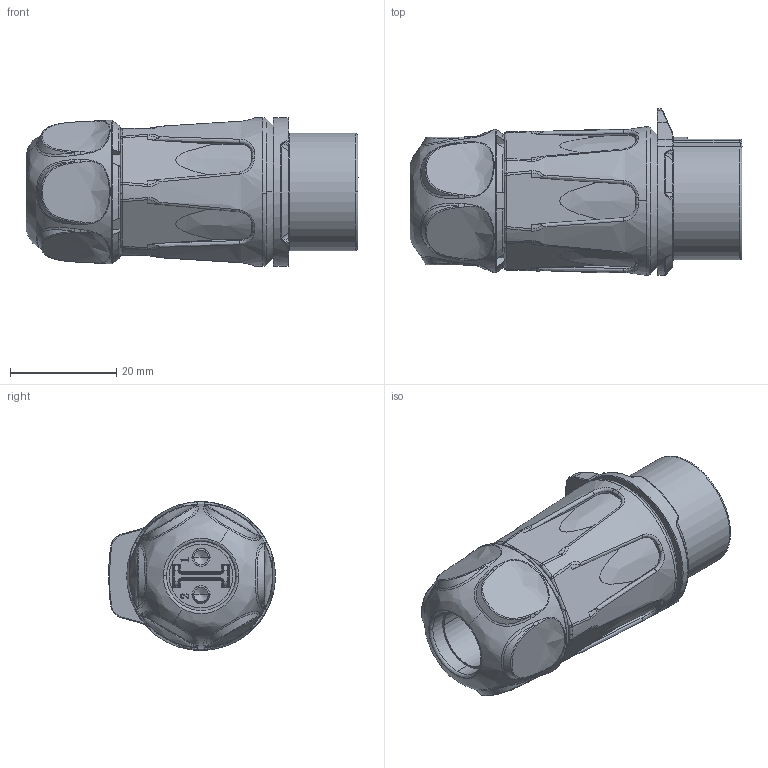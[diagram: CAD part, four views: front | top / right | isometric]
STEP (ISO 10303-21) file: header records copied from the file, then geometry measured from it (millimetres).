
FILE_DESCRIPTION (( 'STEP AP203' ), '1' );
FILE_NAME ('LP-20对接插座组件（塑胶无LOGO款）.STEP', '2018-04-19T11:12:14', ( 'John' ), ( '' ), 'SwSTEP 2.0', 'SolidWorks 2015', '' );
FILE_SCHEMA (( 'CONFIG_CONTROL_DESIGN' ));
Length unit declared in the file: millimetre
Products named in the file (10): 2.7譫渀; 20倰呿蝶郋A璃ㄗ謗郋ㄘ; AB璃郪磁ㄗ謗郋ㄘ; 202-0088-00  LP-20单孔座子（塑胶款有卡孔无LOGO）; LP-20对接插座组件（塑胶无LOGO款）; 299-0046-00  LP-20卡扣件（配塑胶款）; 209-0015-00  LP-20勤諉帣窒; YA-20尾部胶圈（电源）; 210-0023-00  LP-20蹟簽; 20倰呿蝶郋B璃ㄗ謗郋ㄘ
Assembly tree (10 placements, depth 3):
  LP-20对接插座组件（塑胶无LOGO款）
    202-0088-00  LP-20单孔座子（塑胶款有卡孔无LOGO）
    299-0046-00  LP-20卡扣件（配塑胶款）
    209-0015-00  LP-20勤諉帣窒
    YA-20尾部胶圈（电源）
    210-0023-00  LP-20蹟簽
    AB璃郪磁ㄗ謗郋ㄘ
      20倰呿蝶郋B璃ㄗ謗郋ㄘ
      2.7譫渀  x2
      20倰呿蝶郋A璃ㄗ謗郋ㄘ
Bounding box: 62.5 x 31.4 x 28 mm (x, y, z)
Volume: 18012.6 mm3; surface area: 20355.7 mm2
Topology: 8 solids, 10 shells, 1599 faces, 4331 edges, 2769 vertices
Faces by surface type: bspline 548, plane 526, cylinder 374, cone 113, torus 30, sphere 8
Entity records: 125552 total; most frequent: CARTESIAN_POINT 91197, ORIENTED_EDGE 8291, DIRECTION 5127, EDGE_CURVE 4146, VERTEX_POINT 2671, AXIS2_PLACEMENT_3D 1852, EDGE_LOOP 1604, ADVANCED_FACE 1536
